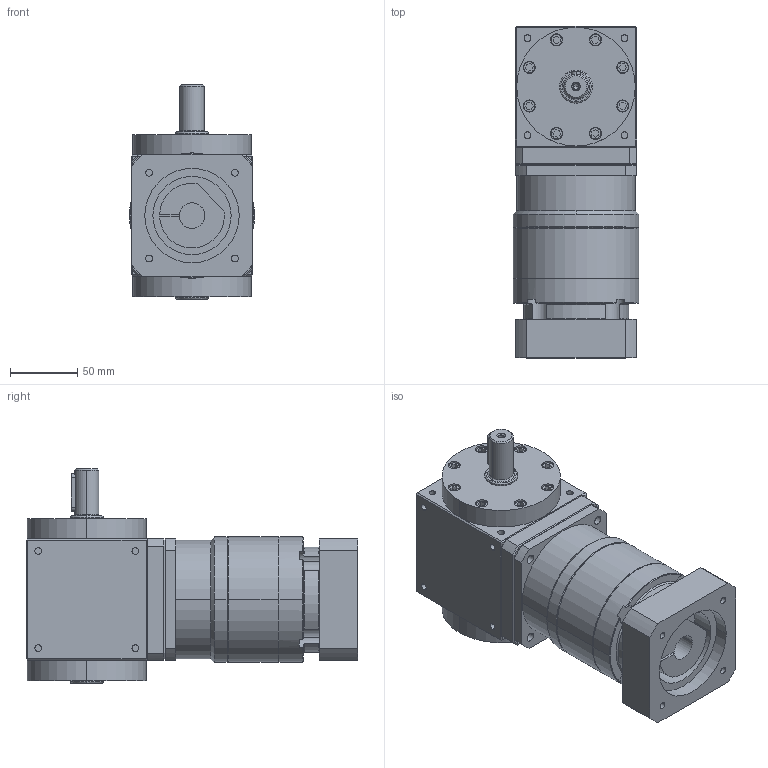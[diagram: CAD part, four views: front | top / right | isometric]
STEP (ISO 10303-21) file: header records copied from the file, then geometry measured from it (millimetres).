
FILE_DESCRIPTION (( 'STEP AP203' ), '1' );
FILE_NAME ('AT090-FR1-L2 19-70-90-M6.STEP', '2024-12-19T08:48:03', ( '' ), ( '' ), 'SwSTEP 2.0', 'SolidWorks 2021', '' );
FILE_SCHEMA (( 'CONFIG_CONTROL_DESIGN' ));
Length unit declared in the file: millimetre
Products named in the file (3): AT090-FR1-L2 19-70-90-M6; VRB-090-L2-S2-P1 19-70-90-M6; AT090-FR1
Assembly tree (2 placements, depth 2):
  AT090-FR1-L2 19-70-90-M6
    AT090-FR1
    VRB-090-L2-S2-P1 19-70-90-M6
Bounding box: 93 x 246 x 159 mm (x, y, z)
Volume: 1982869.6 mm3; surface area: 157339.1 mm2
Topology: 2 solids, 2 shells, 568 faces, 1354 edges, 851 vertices
Faces by surface type: plane 263, cylinder 230, cone 63, bspline 12
Entity records: 17342 total; most frequent: CARTESIAN_POINT 3936, DIRECTION 2783, ORIENTED_EDGE 2700, EDGE_CURVE 1350, AXIS2_PLACEMENT_3D 1042, VERTEX_POINT 851, VECTOR 699, LINE 699
